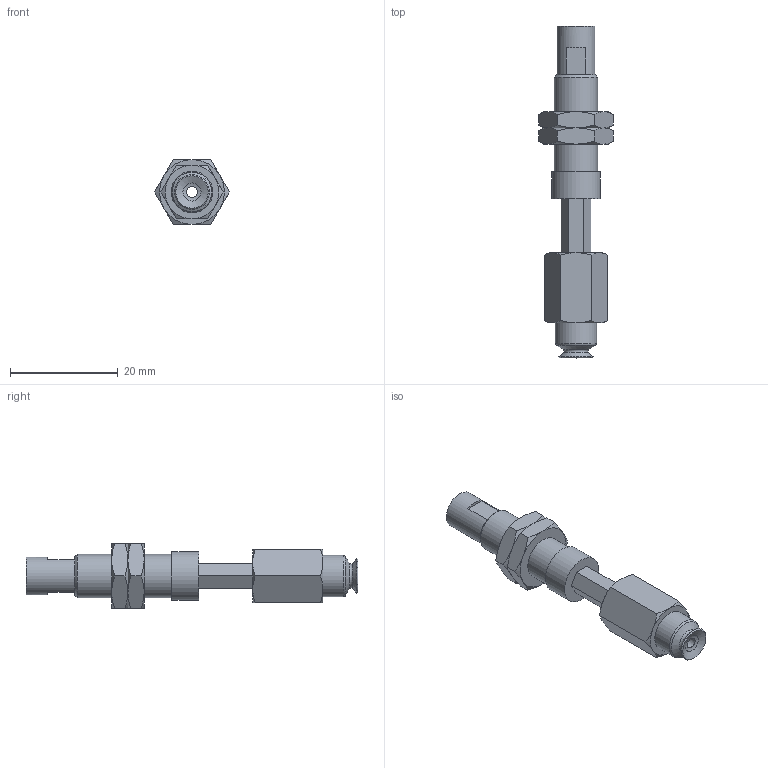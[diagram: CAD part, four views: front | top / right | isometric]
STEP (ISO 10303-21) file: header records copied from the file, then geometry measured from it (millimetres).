
FILE_DESCRIPTION(('STEP AP203'),'1');
FILE_NAME('.stp','2025-08-27T02:56:18',(' '),(' '),'Spatial InterOp 3D',' ',' ');
FILE_SCHEMA(('CONFIG_CONTROL_DESIGN'));
Length unit declared in the file: millimetre
Products named in the file (6): BNABPFTH-6A-10-※; ADAPTER; NAPATH-10A-10--M; Nut-6A-10-h; NAPFTH-6A-10-FBODY; BPFG-6A-※
Assembly tree (6 placements, depth 2):
  BNABPFTH-6A-10-※
    ADAPTER
    NAPATH-10A-10--M
    Nut-6A-10-h  x2
    NAPFTH-6A-10-FBODY
    BPFG-6A-※
Bounding box: 13.86 x 61.5 x 12 mm (x, y, z)
Volume: 3364.6 mm3; surface area: 3965.7 mm2
Topology: 6 solids, 6 shells, 122 faces, 263 edges, 159 vertices
Faces by surface type: plane 52, cone 46, cylinder 14, torus 9, bspline 1
Full cylindrical faces by diameter (mm): 2 x3, 4 x2, 4.134 x1, 6 x2, 7 x1, 7.188 x2, 7.7 x1, 8 x1, 9 x1
Entity records: 2983 total; most frequent: CARTESIAN_POINT 721, DIRECTION 408, ORIENTED_EDGE 352, EDGE_CURVE 176, AXIS2_PLACEMENT_3D 175, EDGE_LOOP 146, VERTEX_POINT 124, FACE_OUTER_BOUND 122
